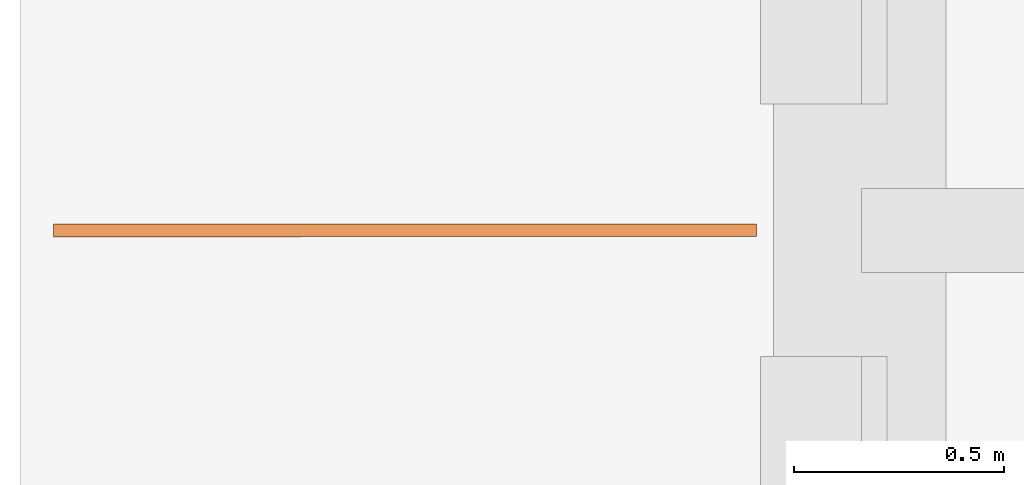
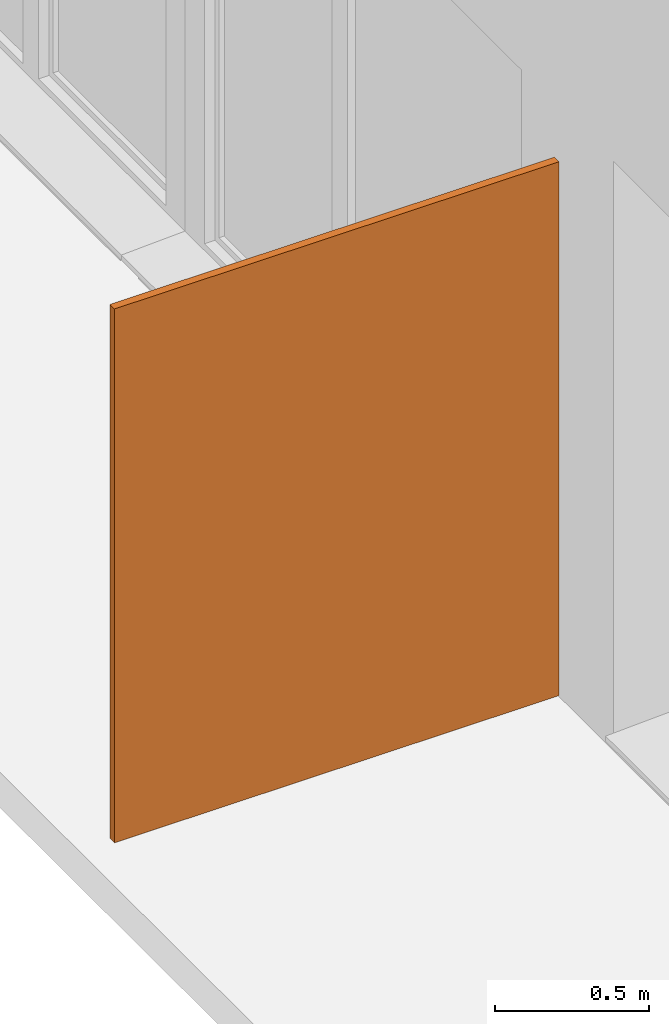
# One storey, part 10 of 46: 1 proxy.
"""IFC2X3 building model written with IfcOpenShell, lengths in millimetres."""

import ifcopenshell
import ifcopenshell.guid

model = None  # the IFC model being written
_history = None  # IfcOwnerHistory: only IFC2X3 demands one
_inside = {}  # id of a spatial element -> (the spatial element, [elements in it])
_under = {}  # id of a project, library or spatial element -> (it, [spatial elements below it])
_declared = {}  # id of a project -> (the project, [libraries it declares])
_typed = {}  # id of a type object -> (the type object, [elements of that type])
_made_of = {}  # id of a material, layer set ... -> (it, [elements and type objects made of it])


def new_model(schema):
    """Start an empty IFC model of exactly this schema.

    Asked for "IFC4X3", IfcOpenShell would pick the latest addendum, in which some entities
    have other attributes; the version numbers below select the first issue.
    IFC2X3 requires an IfcOwnerHistory on every rooted entity: one is made here for all.
    """
    global model, _history
    if schema == "IFC4X3":
        model = ifcopenshell.file(schema_version=(4, 3, 0, 0))
    else:
        model = ifcopenshell.file(schema=schema)
    _inside.clear()
    _under.clear()
    _declared.clear()
    _typed.clear()
    _made_of.clear()
    _history = None
    if model.schema == "IFC2X3":
        org = make("IfcOrganization", Name="unknown")
        user = make(
            "IfcPersonAndOrganization",
            ThePerson=make("IfcPerson", FamilyName="unknown"),
            TheOrganization=org,
        )
        app = make(
            "IfcApplication",
            ApplicationDeveloper=org,
            Version="unknown",
            ApplicationFullName="unknown",
            ApplicationIdentifier="unknown",
        )
        _history = make(
            "IfcOwnerHistory",
            OwningUser=user,
            OwningApplication=app,
            ChangeAction="ADDED",
            CreationDate=0,
        )
    return model


def make(cls, **values):
    """One entity of the class cls with the attributes given. An attribute that is None is left unset."""
    return model.create_entity(
        cls, **{name: value for name, value in values.items() if value is not None}
    )


def entity(cls, *values):
    """Any entity or typed value of the class cls, its attributes in the order of the schema. None: left unset."""
    e = model.create_entity(cls)
    for i, value in enumerate(values):
        if value is not None:
            e[i] = value
    return e


def rooted(cls, **values):
    """An entity with a GlobalId (a new one), such as an element, a storey or a relation."""
    return make(cls, GlobalId=ifcopenshell.guid.new(), OwnerHistory=_history, **values)


def si_unit(unit_type, name, prefix=None):
    """IfcSIUnit, for example si_unit("LENGTHUNIT", "METRE", prefix="MILLI")."""
    return make("IfcSIUnit", UnitType=unit_type, Prefix=prefix, Name=name)


def converted_unit(unit_type, name, factor, base, dimensions=None, offset=None):
    """IfcConversionBasedUnit, such as the inch: factor (a typed value) times the base unit."""
    return make(
        "IfcConversionBasedUnit"
        if offset is None
        else "IfcConversionBasedUnitWithOffset",
        ConversionOffset=offset,
        Dimensions=None
        if dimensions is None
        else entity("IfcDimensionalExponents", *dimensions),
        UnitType=unit_type,
        Name=name,
        ConversionFactor=make(
            "IfcMeasureWithUnit", ValueComponent=factor, UnitComponent=base
        ),
    )


def derived_unit(unit_type, elements):
    """IfcDerivedUnit: a product of units, each with its exponent."""
    return make(
        "IfcDerivedUnit",
        Elements=[
            make("IfcDerivedUnitElement", Unit=unit, Exponent=power)
            for unit, power in elements
        ],
        UnitType=unit_type,
    )


def money_unit(currency):
    """IfcMonetaryUnit."""
    return make("IfcMonetaryUnit", Currency=currency)


def assignment(units):
    """IfcUnitAssignment: the units of a project."""
    return None if units is None else make("IfcUnitAssignment", Units=units)


def point(xyz):
    """IfcCartesianPoint."""
    return None if xyz is None else make("IfcCartesianPoint", Coordinates=xyz)


def direction(xyz):
    """IfcDirection."""
    return None if xyz is None else make("IfcDirection", DirectionRatios=xyz)


def frame(location, z_axis=None, x_axis=None):
    """IfcAxis2Placement3D, a coordinate frame: its origin and axes. An axis left out is left unset."""
    return make(
        "IfcAxis2Placement3D",
        Location=point(location),
        Axis=direction(z_axis),
        RefDirection=direction(x_axis),
    )


def origin_with_axes():
    """The frame at (0, 0, 0) with the z axis (0, 0, 1) and the x axis (1, 0, 0) written out."""
    return frame((0.0, 0.0, 0.0), z_axis=(0.0, 0.0, 1.0), x_axis=(1.0, 0.0, 0.0))


def place(relative_to, where):
    """IfcLocalPlacement: puts the frame where relative to a parent placement (None: the world)."""
    return make(
        "IfcLocalPlacement", PlacementRelTo=relative_to, RelativePlacement=where
    )


def context(
    kind, dimensions, precision=None, world=None, true_north=None, identifier=None
):
    """IfcGeometricRepresentationContext, for example the 3D "Model" context."""
    return make(
        "IfcGeometricRepresentationContext",
        ContextIdentifier=identifier,
        ContextType=kind,
        CoordinateSpaceDimension=dimensions,
        Precision=precision,
        WorldCoordinateSystem=world,
        TrueNorth=true_north,
    )


def subcontext(parent, identifier, kind, view, scale=None):
    """IfcGeometricRepresentationSubContext, for example "Body" below "Model"."""
    return make(
        "IfcGeometricRepresentationSubContext",
        ContextIdentifier=identifier,
        ContextType=kind,
        ParentContext=parent,
        TargetScale=scale,
        TargetView=view,
    )


def project(units=None, contexts=None):
    """IfcProject with its units and contexts."""
    return rooted(
        "IfcProject",
        Name="project",
        RepresentationContexts=contexts,
        UnitsInContext=assignment(units),
    )


def spatial(cls, under=None, at=None, **own):
    """A site, building, storey or space (cls), placed at a placement, below another one or the project."""
    s = rooted(cls, ObjectPlacement=at, **own)
    if under is not None:
        _under.setdefault(under.id(), (under, []))[1].append(s)
    return s


def polyline(points):
    """IfcPolyline through the points."""
    return make("IfcPolyline", Points=[point(p) for p in points])


def outline(outer, holes=None, kind="AREA"):
    """IfcArbitraryClosedProfileDef: a profile drawn as a closed curve; with holes, ...WithVoids."""
    if holes is None:
        return make("IfcArbitraryClosedProfileDef", ProfileType=kind, OuterCurve=outer)
    return make(
        "IfcArbitraryProfileDefWithVoids",
        ProfileType=kind,
        OuterCurve=outer,
        InnerCurves=holes,
    )


def extrude(swept, where, along, depth):
    """IfcExtrudedAreaSolid: the profile swept, set in the frame where, extruded along a direction by depth."""
    return make(
        "IfcExtrudedAreaSolid",
        SweptArea=swept,
        Position=where,
        ExtrudedDirection=direction(along),
        Depth=depth,
    )


def shape(context_of_items, identifier, shape_type, items):
    """IfcShapeRepresentation: the items that make up one representation, for example the "Body"."""
    return make(
        "IfcShapeRepresentation",
        ContextOfItems=context_of_items,
        RepresentationIdentifier=identifier,
        RepresentationType=shape_type,
        Items=items,
    )


def material(Name=None, Category=None):
    """IfcMaterial."""
    return make("IfcMaterial", Name=Name, Category=Category)


def made_of(thing, what):
    """Note that an element or type object is made of a material, layer set ...; save() writes the relation."""
    if what is not None:
        _made_of.setdefault(what.id(), (what, []))[1].append(thing)
    return thing


def type_object(cls, material=None, **own):
    """A type object (cls), such as IfcWallType, which elements share."""
    return made_of(rooted(cls, **own), material)


def element(
    cls,
    number,
    at=None,
    inside=None,
    cuts=None,
    type_object=None,
    material=None,
    context=None,
    identifier="Body",
    shape_type=None,
    held_by="IfcProductDefinitionShape",
    body=None,
    shapes=None,
    **own,
):
    """One element of the class cls, such as IfcWall. Its Tag is "e" and its number.

    at: its placement. inside: the storey or other place that contains it. cuts: it is an
    opening in that element (IfcRelVoidsElement). A single representation is given by context,
    identifier, shape_type and body (its items); several are given by shapes. held_by: the class
    of the entity that holds the representations. save() writes the other relations.
    """
    e = rooted(cls, Tag="e%d" % number, ObjectPlacement=at, **own)
    if body is not None:
        shapes = [shape(context, identifier, shape_type, body)]
    if shapes is not None:
        e.Representation = make(held_by, Representations=shapes)
    if inside is not None:
        _inside.setdefault(inside.id(), (inside, []))[1].append(e)
    if cuts is not None:
        rooted(
            "IfcRelVoidsElement", RelatingBuildingElement=cuts, RelatedOpeningElement=e
        )
    if type_object is not None:
        _typed.setdefault(type_object.id(), (type_object, []))[1].append(e)
    return made_of(e, material)


def aggregate(whole, parts):
    """IfcRelAggregates: a whole, such as a stair, and the parts it consists of."""
    return rooted("IfcRelAggregates", RelatingObject=whole, RelatedObjects=parts)


def save(model, path):
    """Write the relations noted so far, then the file.

    IfcRelAggregates (storeys below a building ...), IfcRelContainedInSpatialStructure (elements
    in a storey), IfcRelDefinesByType, IfcRelAssociatesMaterial and IfcRelDeclares: one each for
    every whole, place, type object, material and project.
    """
    for whole, parts in _under.values():
        aggregate(whole, parts)
    for where, things in _inside.values():
        rooted(
            "IfcRelContainedInSpatialStructure",
            RelatedElements=things,
            RelatingStructure=where,
        )
    for kind, things in _typed.values():
        rooted("IfcRelDefinesByType", RelatedObjects=things, RelatingType=kind)
    for what, things in _made_of.values():
        rooted("IfcRelAssociatesMaterial", RelatedObjects=things, RelatingMaterial=what)
    for by, libraries in _declared.values():
        rooted("IfcRelDeclares", RelatingContext=by, RelatedDefinitions=libraries)
    model.write(path)


model = new_model("IFC2X3")

# Units and contexts
model_context = context("Model", 3, precision=0.01, world=origin_with_axes(), true_north=direction((0.34421633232, 0.938890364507)))
body_context = subcontext(model_context, "Body", "Model", "MODEL_VIEW")
ifc_project = project(units=[si_unit("LENGTHUNIT", "METRE", prefix="MILLI"), si_unit("AREAUNIT", "SQUARE_METRE"), si_unit("VOLUMEUNIT", "CUBIC_METRE"), converted_unit("PLANEANGLEUNIT", "DEGREE", entity("IfcPlaneAngleMeasure", 0.0174532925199), si_unit("PLANEANGLEUNIT", "RADIAN"), dimensions=[0, 0, 0, 0, 0, 0, 0]), si_unit("SOLIDANGLEUNIT", "STERADIAN"), money_unit("USD"), converted_unit("TIMEUNIT", "Year", entity("IfcTimeMeasure", 31556926.0), si_unit("TIMEUNIT", "SECOND"), dimensions=[0, 0, 1, 0, 0, 0, 0]), si_unit("MASSUNIT", "GRAM", prefix="KILO"), si_unit("THERMODYNAMICTEMPERATUREUNIT", "DEGREE_CELSIUS"), si_unit("LUMINOUSINTENSITYUNIT", "LUMEN"), si_unit("ENERGYUNIT", "JOULE", prefix="MEGA"), derived_unit("THERMALCONDUCTANCEUNIT", [(si_unit("POWERUNIT", "WATT"), 1), (si_unit("LENGTHUNIT", "METRE"), -1), (si_unit("THERMODYNAMICTEMPERATUREUNIT", "KELVIN"), -1)]), derived_unit("SPECIFICHEATCAPACITYUNIT", [(si_unit("ENERGYUNIT", "JOULE"), 1), (si_unit("MASSUNIT", "GRAM", prefix="KILO"), -1), (si_unit("THERMODYNAMICTEMPERATUREUNIT", "KELVIN"), -1)]), derived_unit("MASSDENSITYUNIT", [(si_unit("MASSUNIT", "GRAM", prefix="KILO"), 1), (si_unit("VOLUMEUNIT", "CUBIC_METRE"), -1)])], contexts=[model_context])

# Site, building, storey
site_placement = place(None, origin_with_axes())
site = spatial("IfcSite", under=ifc_project, at=site_placement, Name="USTRONIE MORSKIE", CompositionType="ELEMENT")
building_placement = place(site_placement, origin_with_axes())
building = spatial("IfcBuilding", under=site, at=building_placement, Name="Budynek", CompositionType="ELEMENT")
storey_placement = place(building_placement, origin_with_axes())
storey = spatial("IfcBuildingStorey", under=building, at=storey_placement, Name="PARTER", CompositionType="ELEMENT", Elevation=0.0)

# Proxy
ifc_material = material(Name="Woda")
building_element_proxy_type = type_object("IfcBuildingElementProxyType", Name="Woda 30", PredefinedType="NOTDEFINED")
proxy_placement = place(storey_placement, frame((349717.920919, 726901.199036, 20.0), z_axis=(0.0, 0.0, 1.0), x_axis=(-0.999999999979, -6.40856598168e-06, 0.0)))
element("IfcBuildingElementProxy", 1, at=proxy_placement, inside=storey, type_object=building_element_proxy_type, material=ifc_material, Name="Œciana-007", context=body_context, shape_type="SweptSolid", body=[
    extrude(outline(polyline([(0.0, -14.9999999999), (1670.00000003, -14.9999999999), (1670.00000003, 15.0000000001), (0.0, 15.0000000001), (0.0, -14.9999999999)])), origin_with_axes(), (0.0, 0.0, 1.0), 2120.0),
])

save(model, "model.ifc")
